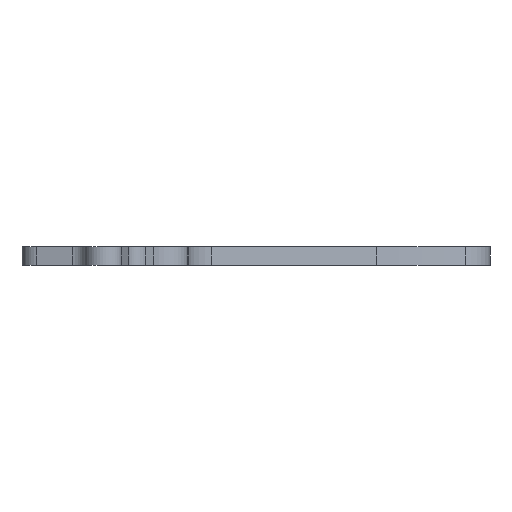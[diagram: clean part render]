
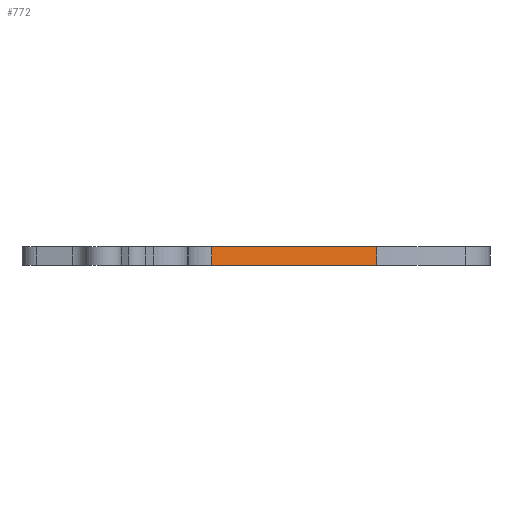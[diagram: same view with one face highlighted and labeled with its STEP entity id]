
A CAD part, left-side view. The second image highlights one B-rep face of the part: STEP entity #772.
In plain terms, the highlighted planar face has unit normal (-0.799, -0.602, 0).
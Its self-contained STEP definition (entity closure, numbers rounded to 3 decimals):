
#49=PLANE('',#866);
#86=FACE_OUTER_BOUND('',#125,.T.);
#125=EDGE_LOOP('',(#628,#629,#630,#631));
#198=LINE('',#1325,#261);
#199=LINE('',#1328,#262);
#200=LINE('',#1330,#263);
#201=LINE('',#1331,#264);
#261=VECTOR('',#1081,10.);
#262=VECTOR('',#1084,10.);
#263=VECTOR('',#1085,10.);
#264=VECTOR('',#1086,10.);
#377=VERTEX_POINT('',#1321);
#378=VERTEX_POINT('',#1323);
#379=VERTEX_POINT('',#1327);
#380=VERTEX_POINT('',#1329);
#484=EDGE_CURVE('',#377,#378,#198,.T.);
#485=EDGE_CURVE('',#379,#377,#199,.T.);
#486=EDGE_CURVE('',#380,#378,#200,.T.);
#487=EDGE_CURVE('',#379,#380,#201,.T.);
#628=ORIENTED_EDGE('',*,*,#485,.T.);
#629=ORIENTED_EDGE('',*,*,#484,.T.);
#630=ORIENTED_EDGE('',*,*,#486,.F.);
#631=ORIENTED_EDGE('',*,*,#487,.F.);
#772=ADVANCED_FACE('',(#86),#49,.T.);
#866=AXIS2_PLACEMENT_3D('',#1326,#1082,#1083);
#1081=DIRECTION('',(0.,0.,1.));
#1082=DIRECTION('center_axis',(-0.799,-0.602,0.));
#1083=DIRECTION('ref_axis',(0.602,-0.799,0.));
#1084=DIRECTION('',(0.602,-0.799,0.));
#1085=DIRECTION('',(0.602,-0.799,0.));
#1086=DIRECTION('',(0.,0.,1.));
#1321=CARTESIAN_POINT('',(-12.226,9.578,0.));
#1323=CARTESIAN_POINT('',(-12.226,9.578,2.5));
#1325=CARTESIAN_POINT('',(-12.226,9.578,0.));
#1326=CARTESIAN_POINT('Origin',(-28.798,31.57,0.));
#1327=CARTESIAN_POINT('',(-28.798,31.57,0.));
#1328=CARTESIAN_POINT('',(-28.798,31.57,0.));
#1329=CARTESIAN_POINT('',(-28.798,31.57,2.5));
#1330=CARTESIAN_POINT('',(-28.798,31.57,2.5));
#1331=CARTESIAN_POINT('',(-28.798,31.57,0.));
